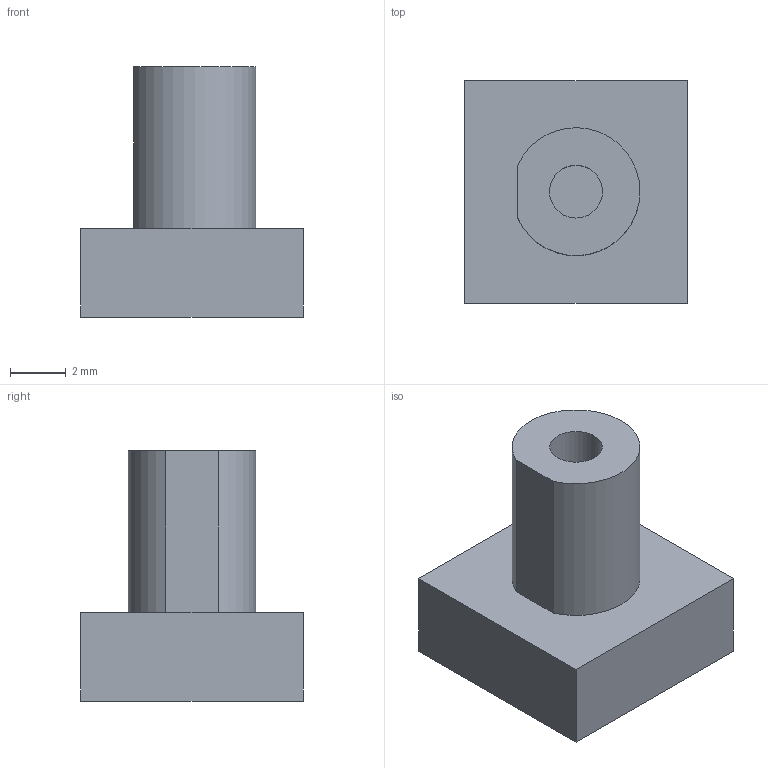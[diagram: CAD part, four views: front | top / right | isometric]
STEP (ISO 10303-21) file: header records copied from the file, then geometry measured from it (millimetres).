
FILE_DESCRIPTION(('Open CASCADE Model'),'2;1');
FILE_NAME('Open CASCADE Shape Model','2026-09-15T13:37:42',('Author'),( 'Open CASCADE'),'Open CASCADE STEP processor 7.7','Open CASCADE 7.7' ,'Unknown');
FILE_SCHEMA(('AUTOMOTIVE_DESIGN { 1 0 10303 214 1 1 1 1 }'));
Length unit declared in the file: millimetre
Products named in the file (1): Open CASCADE STEP translator 7.7 6
Bounding box: 8 x 8 x 9 mm (x, y, z)
Volume: 286.7 mm3; surface area: 341.3 mm2
Topology: 1 solids, 1 shells, 11 faces, 21 edges, 14 vertices
Faces by surface type: plane 9, cylinder 2
Full cylindrical faces by diameter (mm): 1.9 x1
Entity records: 560 total; most frequent: CARTESIAN_POINT 109, DIRECTION 81, LINE 47, VECTOR 47, ORIENTED_EDGE 42, PCURVE 42, DEFINITIONAL_REPRESENTATION 42, EDGE_CURVE 21
